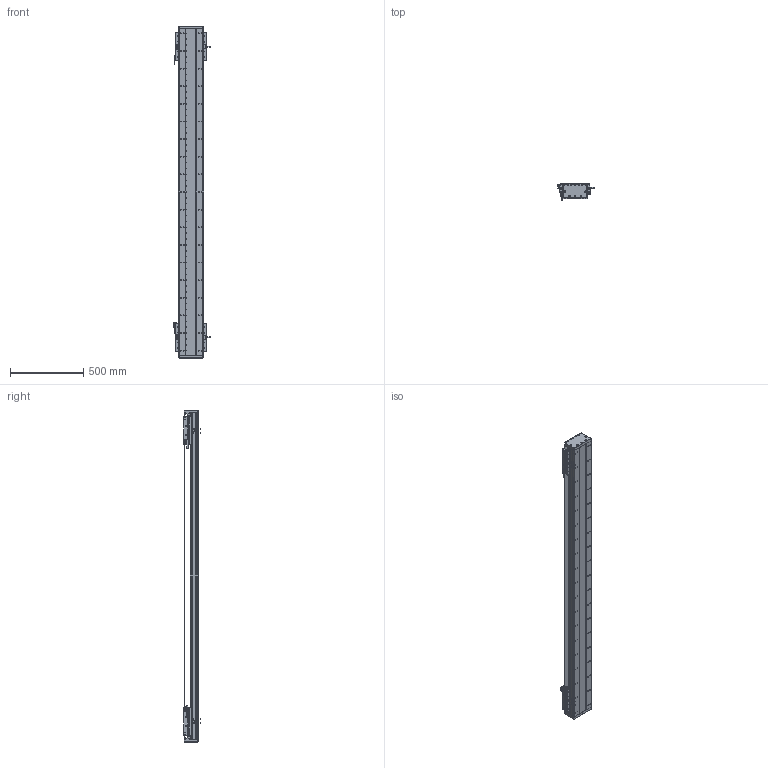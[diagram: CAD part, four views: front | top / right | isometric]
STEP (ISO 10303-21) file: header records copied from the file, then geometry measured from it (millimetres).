
FILE_DESCRIPTION (( 'STEP AP203' ), '1' );
FILE_NAME ('DA-C165-2-C2-T1760-C010-0.2 直线电机.STEP', '2023-05-11T08:24:19', ( '微软用户' ), ( '微软中国' ), 'SwSTEP 2.0', 'SolidWorks 2019', '' );
FILE_SCHEMA (( 'CONFIG_CONTROL_DESIGN' ));
Length unit declared in the file: millimetre
Products named in the file (22): 复件 DKW-HXJ-JY-00 缓冲橡胶^DA-C165-C2-T-C010-0.2-N 直线电机; 复件 DA126-GYP-ZJ-00 中间光电感应片^DA-C165-C2-T-C010-0.2-N 直线电机; 葩璃 PM-T45^DA-C165-C2-T-C010-0.2-N 眻盄萇儂; 复件 XD-U-02L 磁栅尺^DA-C165-C2-T-C010-0.2-N 直线电机_T; IU-CU165-L 菁釱絳寢; 复件 DMA-010-0.2 读数头^DA-C165-C2-T-C010-0.2-N 直线电机; 复件 DA165-GDYK-00 钢带压块^复件 CU165钢带组件_DA-C165-C2-T-C010-0.2-N 直线电机; DA-C165-2-C2-T1760-C010-0.2 眻盄萇儂; 复件 CU165钢带组件^DA-C165-C2-T-C010-0.2-N 直线电机; 葩璃 CKM01-W075-TRL^DA-C165-C2-T-C010-0.2-N 眻盄萇儂; 葩璃 PM-Y45^DA-C165-C2-T-C010-0.2-N 眻盄萇儂; IU-CU165-L-00 菁釱_L2220; 复件 CKM02-W075-C1C2-TP-3.0 一体电机-C2^DA-C165-C2-T-C010-0.2-N 直线电机; 复件 66338-1000-006-00 光电感应块^DA-C165-C2-T-C010-0.2-N 直线电机; 复件 DA165-GD-DG-H-00 端盖^复件 CU165钢带组件_DA-C165-C2-T-C010-0.2-N 直线电机; 葩璃 DA95-GT-T-00^IU-CU165-L 菁釱絳寢_T; 复件 DA165-GD-1860-002-00 钢带盖板^复件 CU165钢带组件_DA-C165-C2-T-C010-0.2-N 直线电机; 复件 DA95-HXJ-00 缓冲橡胶^DA-C165-C2-T-C010-0.2-N 直线电机; 复件 DA165-GYP-00 光电感应片^DA-C165-C2-T-C010-0.2-N 直线电机; 珨极趙賑雄怢啣wf-C2; 复件 六角薄螺母 M3^DA-C165-C2-T-C010-0.2-N 直线电机_GB_FASTENER_NUT_STNAB M3-C; 复件 DA165-GDLK-00 钢带拉块^复件 CU165钢带组件_DA-C165-C2-T-C010-0.2-N 直线电机
Assembly tree (43 placements, depth 3):
  DA-C165-2-C2-T1760-C010-0.2 眻盄萇儂
    IU-CU165-L 菁釱絳寢
      IU-CU165-L-00 菁釱_L2220
      葩璃 DA95-GT-T-00^IU-CU165-L 菁釱絳寢_T  x4
    复件 XD-U-02L 磁栅尺^DA-C165-C2-T-C010-0.2-N 直线电机_T
    葩璃 PM-T45^DA-C165-C2-T-C010-0.2-N 眻盄萇儂  x4
    葩璃 CKM01-W075-TRL^DA-C165-C2-T-C010-0.2-N 眻盄萇儂
    复件 CU165钢带组件^DA-C165-C2-T-C010-0.2-N 直线电机
      复件 DA165-GD-DG-H-00 端盖^复件 CU165钢带组件_DA-C165-C2-T-C010-0.2-N 直线电机  x2
      复件 DA165-GDYK-00 钢带压块^复件 CU165钢带组件_DA-C165-C2-T-C010-0.2-N 直线电机  x2
      复件 DA165-GD-1860-002-00 钢带盖板^复件 CU165钢带组件_DA-C165-C2-T-C010-0.2-N 直线电机
      复件 DA165-GDLK-00 钢带拉块^复件 CU165钢带组件_DA-C165-C2-T-C010-0.2-N 直线电机  x2
    复件 DA95-HXJ-00 缓冲橡胶^DA-C165-C2-T-C010-0.2-N 直线电机  x4
    复件 CKM02-W075-C1C2-TP-3.0 一体电机-C2^DA-C165-C2-T-C010-0.2-N 直线电机  x2
    复件 DMA-010-0.2 读数头^DA-C165-C2-T-C010-0.2-N 直线电机  x2
    复件 DA165-GYP-00 光电感应片^DA-C165-C2-T-C010-0.2-N 直线电机  x2
    复件 66338-1000-006-00 光电感应块^DA-C165-C2-T-C010-0.2-N 直线电机
    葩璃 PM-Y45^DA-C165-C2-T-C010-0.2-N 眻盄萇儂
    复件 DA126-GYP-ZJ-00 中间光电感应片^DA-C165-C2-T-C010-0.2-N 直线电机
    复件 DKW-HXJ-JY-00 缓冲橡胶^DA-C165-C2-T-C010-0.2-N 直线电机  x2
    复件 六角薄螺母 M3^DA-C165-C2-T-C010-0.2-N 直线电机_GB_FASTENER_NUT_STNAB M3-C  x6
    珨极趙賑雄怢啣wf-C2  x2
Bounding box: 247.2 x 111.45 x 2260 mm (x, y, z)
Volume: 14440516 mm3; surface area: 4130365.6 mm2
Topology: 119 solids, 119 shells, 5479 faces, 15230 edges, 9584 vertices
Faces by surface type: cylinder 2892, plane 1795, cone 704, torus 80, sphere 8
Entity records: 127356 total; most frequent: CARTESIAN_POINT 33233, ORIENTED_EDGE 19404, DIRECTION 18880, EDGE_CURVE 9702, AXIS2_PLACEMENT_3D 7144, VERTEX_POINT 6321, VECTOR 4592, LINE 4592
